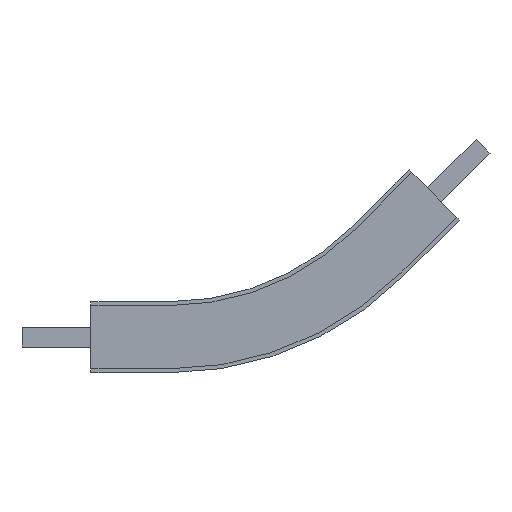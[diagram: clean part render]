
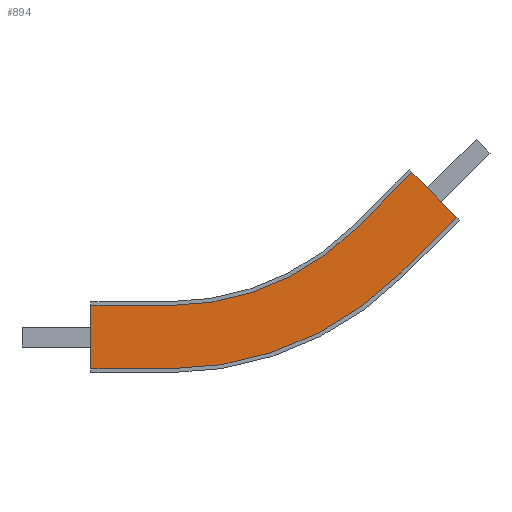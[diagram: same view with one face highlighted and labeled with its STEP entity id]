
A CAD part, front view. The second image highlights one B-rep face of the part: STEP entity #894.
In plain terms, the highlighted planar face has unit normal (0, -1, 0).
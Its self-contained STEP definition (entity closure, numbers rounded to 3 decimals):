
#41=CIRCLE('',#968,332.1);
#42=CIRCLE('',#970,267.9);
#84=FACE_OUTER_BOUND('',#136,.T.);
#136=EDGE_LOOP('',(#640,#641,#642,#643,#644,#645,#646,#647));
#185=LINE('',#1292,#295);
#187=LINE('',#1298,#297);
#197=LINE('',#1324,#307);
#198=LINE('',#1327,#308);
#199=LINE('',#1328,#309);
#200=LINE('',#1329,#310);
#295=VECTOR('',#1040,10.);
#297=VECTOR('',#1044,10.);
#307=VECTOR('',#1070,10.);
#308=VECTOR('',#1073,10.);
#309=VECTOR('',#1074,10.);
#310=VECTOR('',#1075,10.);
#402=VERTEX_POINT('',#1285);
#405=VERTEX_POINT('',#1290);
#407=VERTEX_POINT('',#1295);
#408=VERTEX_POINT('',#1297);
#410=VERTEX_POINT('',#1303);
#413=VERTEX_POINT('',#1310);
#416=VERTEX_POINT('',#1322);
#417=VERTEX_POINT('',#1326);
#489=EDGE_CURVE('',#402,#405,#185,.T.);
#491=EDGE_CURVE('',#407,#408,#187,.T.);
#496=EDGE_CURVE('',#410,#402,#41,.T.);
#498=EDGE_CURVE('',#413,#407,#42,.T.);
#505=EDGE_CURVE('',#416,#410,#197,.T.);
#506=EDGE_CURVE('',#416,#417,#198,.T.);
#507=EDGE_CURVE('',#408,#405,#199,.T.);
#508=EDGE_CURVE('',#417,#413,#200,.T.);
#640=ORIENTED_EDGE('',*,*,#506,.F.);
#641=ORIENTED_EDGE('',*,*,#505,.T.);
#642=ORIENTED_EDGE('',*,*,#496,.T.);
#643=ORIENTED_EDGE('',*,*,#489,.T.);
#644=ORIENTED_EDGE('',*,*,#507,.F.);
#645=ORIENTED_EDGE('',*,*,#491,.F.);
#646=ORIENTED_EDGE('',*,*,#498,.F.);
#647=ORIENTED_EDGE('',*,*,#508,.F.);
#848=PLANE('',#974);
#894=ADVANCED_FACE('',(#84),#848,.T.);
#968=AXIS2_PLACEMENT_3D('',#1307,#1052,#1053);
#970=AXIS2_PLACEMENT_3D('',#1312,#1057,#1058);
#974=AXIS2_PLACEMENT_3D('',#1325,#1071,#1072);
#1040=DIRECTION('',(0.707,0.,0.707));
#1044=DIRECTION('',(0.707,0.,0.707));
#1052=DIRECTION('center_axis',(0.,-1.,0.));
#1053=DIRECTION('ref_axis',(0.,0.,
-1.));
#1057=DIRECTION('center_axis',(0.,-1.,0.));
#1058=DIRECTION('ref_axis',(0.,0.,
-1.));
#1070=DIRECTION('',(1.,0.,0.));
#1071=DIRECTION('center_axis',(0.,-1.,0.));
#1072=DIRECTION('ref_axis',(0.,0.,-1.));
#1073=DIRECTION('',(0.,0.,1.));
#1074=DIRECTION('',(0.707,0.,-0.707));
#1075=DIRECTION('',(1.,0.,0.));
#1285=CARTESIAN_POINT('',(314.83,-22.5,65.17));
#1290=CARTESIAN_POINT('',(371.399,-22.5,121.738));
#1292=CARTESIAN_POINT('',(314.83,-22.5,65.17));
#1295=CARTESIAN_POINT('',(269.434,-22.5,110.566));
#1297=CARTESIAN_POINT('',(326.002,-22.5,167.135));
#1298=CARTESIAN_POINT('',(269.434,-22.5,110.566));
#1303=CARTESIAN_POINT('',(80.,-22.5,-32.1));
#1307=CARTESIAN_POINT('Origin',(80.,-22.5,300.));
#1310=CARTESIAN_POINT('',(80.,-22.5,32.1));
#1312=CARTESIAN_POINT('Origin',(80.,-22.5,300.));
#1322=CARTESIAN_POINT('',(0.,-22.5,-32.1));
#1324=CARTESIAN_POINT('',(0.,-22.5,-32.1));
#1325=CARTESIAN_POINT('Origin',(0.,-22.5,32.1));
#1326=CARTESIAN_POINT('',(0.,-22.5,32.1));
#1327=CARTESIAN_POINT('',(0.,-22.5,-32.1));
#1328=CARTESIAN_POINT('',(371.399,-22.5,121.738));
#1329=CARTESIAN_POINT('',(0.,-22.5,32.1));
